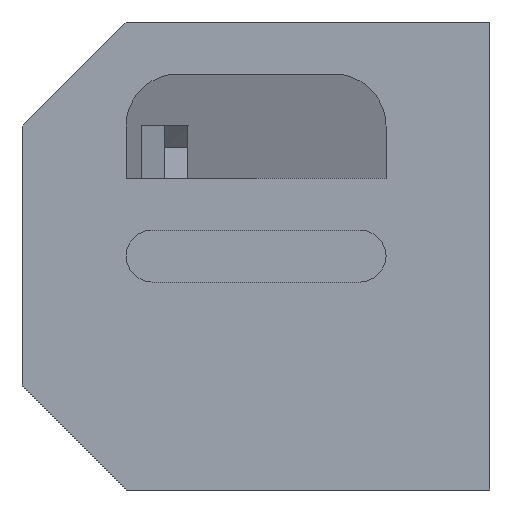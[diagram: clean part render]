
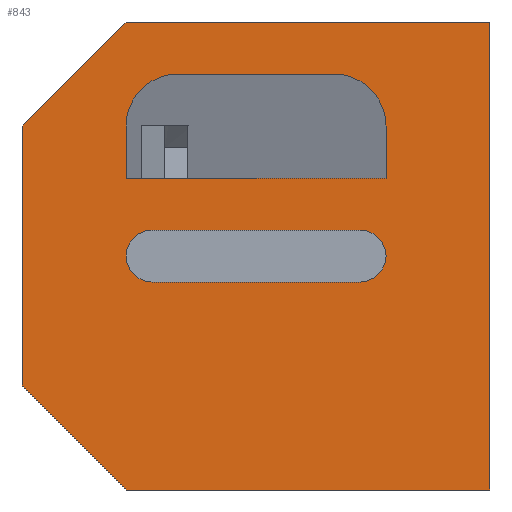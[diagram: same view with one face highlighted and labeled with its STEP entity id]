
A CAD part, front view. The second image highlights one B-rep face of the part: STEP entity #843.
In plain terms, the highlighted planar face has unit normal (0, -1, 0).
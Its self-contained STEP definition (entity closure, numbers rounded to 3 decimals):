
#19=FACE_BOUND('',#132,.T.);
#20=FACE_BOUND('',#133,.T.);
#43=PLANE('',#924);
#84=FACE_OUTER_BOUND('',#131,.T.);
#131=EDGE_LOOP('',(#684,#685,#686,#687,#688,#689));
#132=EDGE_LOOP('',(#690,#691,#692,#693,#694,#695));
#133=EDGE_LOOP('',(#696,#697,#698,#699));
#163=LINE('',#1206,#266);
#166=LINE('',#1212,#269);
#169=LINE('',#1216,#272);
#172=LINE('',#1228,#275);
#176=LINE('',#1239,#279);
#205=LINE('',#1299,#308);
#216=LINE('',#1321,#319);
#222=LINE('',#1337,#325);
#223=LINE('',#1340,#326);
#224=LINE('',#1342,#327);
#225=LINE('',#1343,#328);
#226=LINE('',#1344,#329);
#266=VECTOR('',#973,10.);
#269=VECTOR('',#978,10.);
#272=VECTOR('',#983,10.);
#275=VECTOR('',#994,10.);
#279=VECTOR('',#1006,10.);
#308=VECTOR('',#1051,10.);
#319=VECTOR('',#1072,10.);
#325=VECTOR('',#1088,10.);
#326=VECTOR('',#1091,10.);
#327=VECTOR('',#1092,10.);
#328=VECTOR('',#1093,10.);
#329=VECTOR('',#1094,10.);
#365=CIRCLE('',#891,20.);
#367=CIRCLE('',#894,20.);
#368=CIRCLE('',#899,10.);
#370=CIRCLE('',#903,10.);
#382=VERTEX_POINT('',#1188);
#383=VERTEX_POINT('',#1190);
#386=VERTEX_POINT('',#1197);
#387=VERTEX_POINT('',#1199);
#389=VERTEX_POINT('',#1205);
#391=VERTEX_POINT('',#1211);
#392=VERTEX_POINT('',#1218);
#393=VERTEX_POINT('',#1219);
#396=VERTEX_POINT('',#1227);
#398=VERTEX_POINT('',#1233);
#421=VERTEX_POINT('',#1296);
#422=VERTEX_POINT('',#1298);
#428=VERTEX_POINT('',#1319);
#433=VERTEX_POINT('',#1335);
#434=VERTEX_POINT('',#1339);
#435=VERTEX_POINT('',#1341);
#458=EDGE_CURVE('',#383,#382,#365,.T.);
#462=EDGE_CURVE('',#387,#386,#367,.T.);
#465=EDGE_CURVE('',#389,#387,#163,.T.);
#468=EDGE_CURVE('',#391,#389,#166,.T.);
#471=EDGE_CURVE('',#382,#391,#169,.T.);
#472=EDGE_CURVE('',#392,#393,#368,.T.);
#476=EDGE_CURVE('',#393,#396,#172,.T.);
#479=EDGE_CURVE('',#396,#398,#370,.T.);
#482=EDGE_CURVE('',#398,#392,#176,.T.);
#511=EDGE_CURVE('',#421,#422,#205,.T.);
#523=EDGE_CURVE('',#428,#421,#216,.T.);
#531=EDGE_CURVE('',#433,#428,#222,.T.);
#532=EDGE_CURVE('',#434,#433,#223,.T.);
#533=EDGE_CURVE('',#435,#434,#224,.T.);
#534=EDGE_CURVE('',#422,#435,#225,.T.);
#535=EDGE_CURVE('',#386,#383,#226,.T.);
#684=ORIENTED_EDGE('',*,*,#523,.F.);
#685=ORIENTED_EDGE('',*,*,#531,.F.);
#686=ORIENTED_EDGE('',*,*,#532,.F.);
#687=ORIENTED_EDGE('',*,*,#533,.F.);
#688=ORIENTED_EDGE('',*,*,#534,.F.);
#689=ORIENTED_EDGE('',*,*,#511,.F.);
#690=ORIENTED_EDGE('',*,*,#465,.T.);
#691=ORIENTED_EDGE('',*,*,#462,.T.);
#692=ORIENTED_EDGE('',*,*,#535,.T.);
#693=ORIENTED_EDGE('',*,*,#458,.T.);
#694=ORIENTED_EDGE('',*,*,#471,.T.);
#695=ORIENTED_EDGE('',*,*,#468,.T.);
#696=ORIENTED_EDGE('',*,*,#472,.T.);
#697=ORIENTED_EDGE('',*,*,#476,.T.);
#698=ORIENTED_EDGE('',*,*,#479,.T.);
#699=ORIENTED_EDGE('',*,*,#482,.T.);
#843=ADVANCED_FACE('',(#84,#19,#20),#43,.F.);
#891=AXIS2_PLACEMENT_3D('',#1191,#959,#960);
#894=AXIS2_PLACEMENT_3D('',#1200,#967,#968);
#899=AXIS2_PLACEMENT_3D('',#1220,#986,#987);
#903=AXIS2_PLACEMENT_3D('',#1234,#999,#1000);
#924=AXIS2_PLACEMENT_3D('',#1338,#1089,#1090);
#959=DIRECTION('center_axis',(0.,1.,0.));
#960=DIRECTION('ref_axis',(1.,0.,0.));
#967=DIRECTION('center_axis',(0.,1.,0.));
#968=DIRECTION('ref_axis',(0.,0.,1.));
#973=DIRECTION('',(0.,0.,1.));
#978=DIRECTION('',(-1.,0.,0.));
#983=DIRECTION('',(0.,0.,-1.));
#986=DIRECTION('center_axis',(0.,1.,0.));
#987=DIRECTION('ref_axis',(1.,0.,0.));
#994=DIRECTION('',(-1.,0.,0.));
#999=DIRECTION('center_axis',(0.,1.,0.));
#1000=DIRECTION('ref_axis',(1.,0.,0.));
#1006=DIRECTION('',(1.,0.,0.));
#1051=DIRECTION('',(-1.,0.,0.));
#1072=DIRECTION('',(0.,0.,-1.));
#1088=DIRECTION('',(1.,0.,0.));
#1089=DIRECTION('center_axis',(0.,1.,0.));
#1090=DIRECTION('ref_axis',(0.,0.,1.));
#1091=DIRECTION('',(0.707,0.,0.707));
#1092=DIRECTION('',(0.,0.,1.));
#1093=DIRECTION('',(-0.707,0.,0.707));
#1094=DIRECTION('',(1.,0.,0.));
#1188=CARTESIAN_POINT('',(50.,0.,50.));
#1190=CARTESIAN_POINT('',(30.,0.,70.));
#1191=CARTESIAN_POINT('Origin',(30.,0.,50.));
#1197=CARTESIAN_POINT('',(-30.,0.,70.));
#1199=CARTESIAN_POINT('',(-50.,0.,50.));
#1200=CARTESIAN_POINT('Origin',(-30.,0.,50.));
#1205=CARTESIAN_POINT('',(-50.,0.,30.));
#1206=CARTESIAN_POINT('',(-50.,0.,15.));
#1211=CARTESIAN_POINT('',(50.,0.,30.));
#1212=CARTESIAN_POINT('',(25.,0.,30.));
#1216=CARTESIAN_POINT('',(50.,0.,25.));
#1218=CARTESIAN_POINT('',(40.,0.,10.));
#1219=CARTESIAN_POINT('',(40.,0.,-10.));
#1220=CARTESIAN_POINT('Origin',(40.,0.,0.));
#1227=CARTESIAN_POINT('',(-40.,0.,-10.));
#1228=CARTESIAN_POINT('',(-20.,0.,-10.));
#1233=CARTESIAN_POINT('',(-40.,0.,10.));
#1234=CARTESIAN_POINT('Origin',(-40.,0.,0.));
#1239=CARTESIAN_POINT('',(20.,0.,10.));
#1296=CARTESIAN_POINT('',(90.,0.,-90.));
#1298=CARTESIAN_POINT('',(-50.,0.,-90.));
#1299=CARTESIAN_POINT('',(90.,0.,-90.));
#1319=CARTESIAN_POINT('',(90.,0.,90.));
#1321=CARTESIAN_POINT('',(90.,0.,90.));
#1335=CARTESIAN_POINT('',(-50.,0.,90.));
#1337=CARTESIAN_POINT('',(-50.,0.,90.));
#1338=CARTESIAN_POINT('Origin',(0.,0.,0.));
#1339=CARTESIAN_POINT('',(-90.,0.,50.));
#1340=CARTESIAN_POINT('',(-90.,0.,50.));
#1341=CARTESIAN_POINT('',(-90.,0.,-50.));
#1342=CARTESIAN_POINT('',(-90.,0.,-50.));
#1343=CARTESIAN_POINT('',(-50.,0.,-90.));
#1344=CARTESIAN_POINT('',(-15.,0.,70.));
